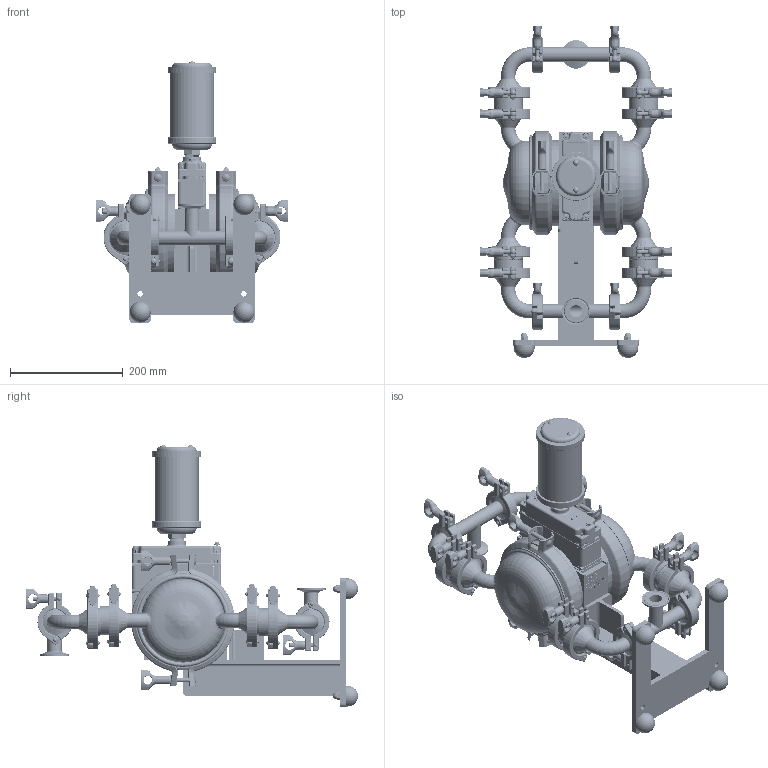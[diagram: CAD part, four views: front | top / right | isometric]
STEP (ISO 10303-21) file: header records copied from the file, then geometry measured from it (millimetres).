
FILE_DESCRIPTION((''),'2;1');
FILE_NAME('02_SS_SANIFLO_HS_PUMP_SW0003','2013-12-05T',('nathan.hale'),(''),'PRO/ENGINEER BY PARAMETRIC TECHNOLOGY CORPORATION, 2011180','PRO/ENGINEER BY PARAMETRIC TECHNOLOGY CORPORATION, 2011180','');
FILE_SCHEMA(('CONFIG_CONTROL_DESIGN'));
Products named in the file (1): 02_SS_SANIFLO_HS_PUMP_SW0003
Bounding box: 341.07 x 588.91 x 464.53 mm (x, y, z)
Volume: 5181728 mm3; surface area: 1361484.9 mm2
Topology: 21 solids, 32 shells, 13488 faces, 35281 edges, 22116 vertices
Faces by surface type: plane 7335, cylinder 2357, torus 1473, bspline 1219, cone 726, sphere 378
Entity records: 568263 total; most frequent: CARTESIAN_POINT 243824, ORIENTED_EDGE 70214, DIRECTION 64139, EDGE_CURVE 35107, VECTOR 22459, LINE 22459, VERTEX_POINT 22114, AXIS2_PLACEMENT_3D 20840
